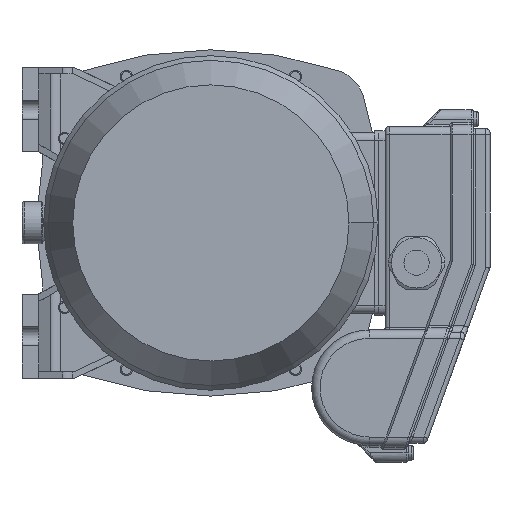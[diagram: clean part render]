
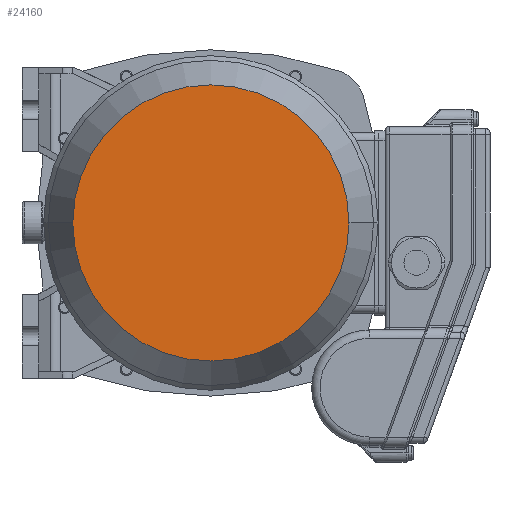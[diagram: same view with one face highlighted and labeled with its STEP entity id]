
A CAD part, front view. The second image highlights one B-rep face of the part: STEP entity #24160.
In plain terms, the highlighted planar face has unit normal (0, -1, 0) as drawn and (1, 0, 0) by its records, which use the part's own axes.
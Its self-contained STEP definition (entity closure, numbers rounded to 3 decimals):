
#18253=CARTESIAN_POINT('',(203.,0.,0.));
#18254=DIRECTION('',(-1.,0.,0.));
#18255=DIRECTION('',(0.,1.,0.));
#18256=AXIS2_PLACEMENT_3D('',#18253,#18254,#18255);
#18261=CARTESIAN_POINT('',(203.,0.,0.));
#18262=DIRECTION('',(1.,0.,0.));
#18263=DIRECTION('',(0.,1.,0.));
#18264=AXIS2_PLACEMENT_3D('',#18261,#18262,#18263);
#19569=CARTESIAN_POINT('',(203.,65.794,0.));
#19571=VERTEX_POINT('',#19569);
#19579=CARTESIAN_POINT('',(203.,-65.794,0.));
#19581=VERTEX_POINT('',#19579);
#24151=CARTESIAN_POINT('',(203.,0.,0.));
#24152=DIRECTION('',(1.,0.,0.));
#24153=DIRECTION('',(0.,-1.,0.));
#24154=AXIS2_PLACEMENT_3D('',#24151,#24152,#24153);
#24155=PLANE('',#24154);
#24156=ORIENTED_EDGE('',*,*,#24133,.T.);
#24157=ORIENTED_EDGE('',*,*,#24144,.F.);
#24158=EDGE_LOOP('',(#24156,#24157));
#24159=FACE_OUTER_BOUND('',#24158,.F.);
#18257=CIRCLE('',#18256,65.794);
#18265=CIRCLE('',#18264,65.794);
#24133=EDGE_CURVE('',#19571,#19581,#18257,.T.);
#24144=EDGE_CURVE('',#19571,#19581,#18265,.T.);
#24160=ADVANCED_FACE('',(#24159),#24155,.T.);
